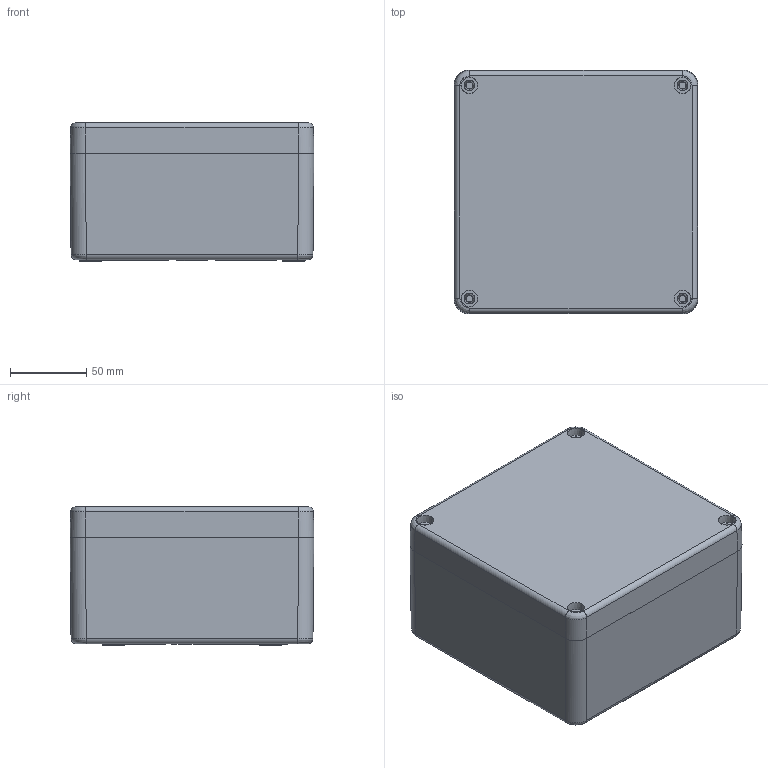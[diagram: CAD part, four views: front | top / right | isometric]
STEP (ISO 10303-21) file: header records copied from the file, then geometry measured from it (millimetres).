
FILE_DESCRIPTION (( 'STEP AP203' ), '1' );
FILE_NAME ('GRP ASSY 16016090.STEP', '2024-08-26T10:38:23', ( '' ), ( '' ), 'SwSTEP 2.0', 'SolidWorks 2018', '' );
FILE_SCHEMA (( 'CONFIG_CONTROL_DESIGN' ));
Length unit declared in the file: millimetre
Products named in the file (5): M6 BOTTOM INSERT; GRP BASE 16016090; GRP ASSY 16016090; GRP LID 16016090; M6 SS TOP INSERT
Assembly tree (12 placements, depth 2):
  GRP ASSY 16016090
    GRP BASE 16016090
    GRP LID 16016090
    M6 BOTTOM INSERT  x6
    M6 SS TOP INSERT  x4
Bounding box: 160.01 x 160.01 x 91 mm (x, y, z)
Volume: 688649.1 mm3; surface area: 224736.2 mm2
Topology: 12 solids, 12 shells, 1162 faces, 2806 edges, 1743 vertices
Faces by surface type: plane 449, cylinder 288, bspline 193, cone 192, torus 40
Entity records: 33363 total; most frequent: CARTESIAN_POINT 14031, ORIENTED_EDGE 4036, DIRECTION 3565, EDGE_CURVE 2018, VERTEX_POINT 1263, AXIS2_PLACEMENT_3D 1248, LINE 1069, VECTOR 1069
